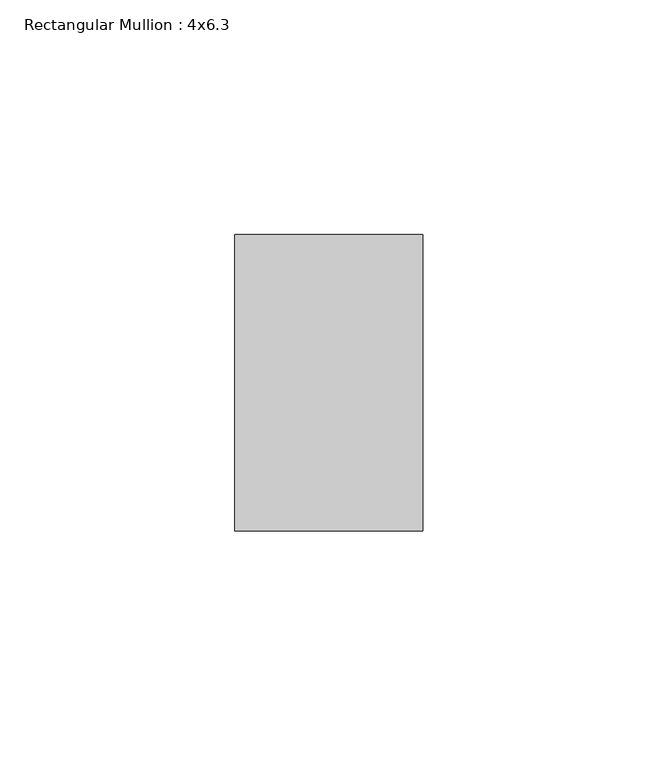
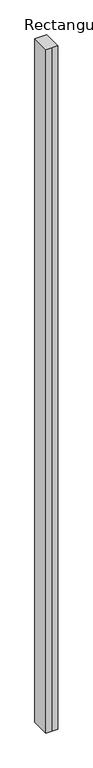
"""IFC4 building model written with IfcOpenShell, lengths in millimetres: member geometry, Rectangular Mullion : 4x6.3."""

from ifc_helpers import new_model, si_unit, frame, origin, place, context, project, spatial, polyline, outline, extrude, source, transform, mapped, element, save


def rectangular_mullion_4x6_3_17db889d(model_context):
    return source(origin(), model_context, "Body", "SweptSolid", [
        extrude(outline(polyline([(-20.0, 20.0), (-20.0, 83.0), (20.0, 83.0), (20.0, 20.0), (0.0, 20.0), (-20.0, 20.0)])), frame((0.0, 0.0, -2398.9628754), z_axis=(0.0, 0.0, 1.0), x_axis=(1.0, 0.0, 0.0)), (0.0, 0.0, 1.0), 2398.9628754),
    ])


if __name__ == "__main__":
    model = new_model("IFC4")
    model_context = context("Model", 3, world=origin())
    ifc_project = project(units=[si_unit("LENGTHUNIT", "METRE", prefix="MILLI")], contexts=[model_context])
    site = spatial("IfcSite", under=ifc_project)
    building = spatial("IfcBuilding", under=site)
    placement = place(None, origin())
    rectangular_mullion_4x6_3_shape = rectangular_mullion_4x6_3_17db889d(model_context)
    element("IfcMember", 1, ObjectType="Rectangular Mullion : 4x6.3", at=placement, inside=building, context=model_context, shape_type="MappedRepresentation", body=[
        mapped(rectangular_mullion_4x6_3_shape, transform((0.0, 0.0, 0.0), x_axis=(1.0, 0.0, 0.0), y_axis=(0.0, 1.0, 0.0), z_axis=(0.0, 0.0, 1.0))),
    ])
    save(model, "model.ifc")
